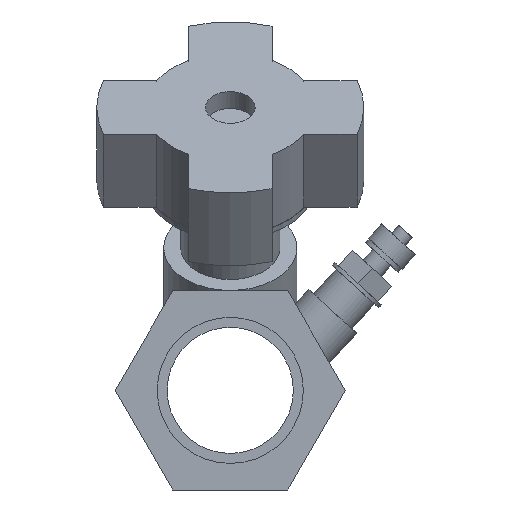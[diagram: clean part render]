
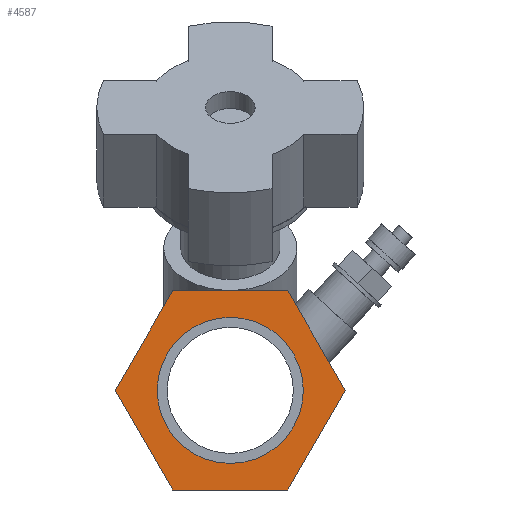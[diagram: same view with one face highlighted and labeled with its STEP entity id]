
A CAD part, left-side view. The second image highlights one B-rep face of the part: STEP entity #4587.
In plain terms, the highlighted planar face has unit normal (-1, 0, 0).
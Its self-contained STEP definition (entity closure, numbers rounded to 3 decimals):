
#247 = CYLINDRICAL_SURFACE('',#248,0.75);
#248 = AXIS2_PLACEMENT_3D('',#249,#250,#251);
#249 = CARTESIAN_POINT('',(0.,0.,0.));
#250 = DIRECTION('',(1.,0.,0.));
#251 = DIRECTION('',(0.,-1.,0.));
#272 = VERTEX_POINT('',#273);
#273 = CARTESIAN_POINT('',(0.,-0.75,0.));
#293 = EDGE_CURVE('',#272,#272,#294,.T.);
#294 = SURFACE_CURVE('',#295,(#300,#307),.PCURVE_S1.);
#295 = CIRCLE('',#296,0.75);
#296 = AXIS2_PLACEMENT_3D('',#297,#298,#299);
#297 = CARTESIAN_POINT('',(0.,0.,0.));
#298 = DIRECTION('',(1.,0.,0.));
#299 = DIRECTION('',(0.,-1.,0.));
#300 = PCURVE('',#247,#301);
#301 = DEFINITIONAL_REPRESENTATION('',(#302),#306);
#302 = LINE('',#303,#304);
#303 = CARTESIAN_POINT('',(0.,0.));
#304 = VECTOR('',#305,1.);
#305 = DIRECTION('',(1.,0.));
#306 = ( GEOMETRIC_REPRESENTATION_CONTEXT(2) 
PARAMETRIC_REPRESENTATION_CONTEXT() REPRESENTATION_CONTEXT('2D SPACE',''
  ) );
#307 = PCURVE('',#308,#313);
#308 = PLANE('',#309);
#309 = AXIS2_PLACEMENT_3D('',#310,#311,#312);
#310 = CARTESIAN_POINT('',(0.,0.,0.));
#311 = DIRECTION('',(1.,0.,0.));
#312 = DIRECTION('',(0.,0.,-1.));
#313 = DEFINITIONAL_REPRESENTATION('',(#314),#318);
#314 = CIRCLE('',#315,0.75);
#315 = AXIS2_PLACEMENT_2D('',#316,#317);
#316 = CARTESIAN_POINT('',(0.,0.));
#317 = DIRECTION('',(0.,-1.));
#318 = ( GEOMETRIC_REPRESENTATION_CONTEXT(2) 
PARAMETRIC_REPRESENTATION_CONTEXT() REPRESENTATION_CONTEXT('2D SPACE',''
  ) );
#4114 = PLANE('',#4115);
#4115 = AXIS2_PLACEMENT_3D('',#4116,#4117,#4118);
#4116 = CARTESIAN_POINT('',(0.,-0.886,0.512));
#4117 = DIRECTION('',(0.,-0.866,0.5));
#4118 = DIRECTION('',(0.,-0.5,-0.866));
#4142 = PLANE('',#4143);
#4143 = AXIS2_PLACEMENT_3D('',#4144,#4145,#4146);
#4144 = CARTESIAN_POINT('',(0.,-0.886,-0.512));
#4145 = DIRECTION('',(0.,-0.866,-0.5));
#4146 = DIRECTION('',(0.,0.5,-0.866));
#4170 = PLANE('',#4171);
#4171 = AXIS2_PLACEMENT_3D('',#4172,#4173,#4174);
#4172 = CARTESIAN_POINT('',(0.,0.,-1.023));
#4173 = DIRECTION('',(0.,0.,-1.));
#4174 = DIRECTION('',(0.,1.,0.));
#4198 = PLANE('',#4199);
#4199 = AXIS2_PLACEMENT_3D('',#4200,#4201,#4202);
#4200 = CARTESIAN_POINT('',(0.,0.886,-0.512));
#4201 = DIRECTION('',(0.,0.866,-0.5));
#4202 = DIRECTION('',(0.,0.5,0.866));
#4226 = PLANE('',#4227);
#4227 = AXIS2_PLACEMENT_3D('',#4228,#4229,#4230);
#4228 = CARTESIAN_POINT('',(0.,0.886,0.512));
#4229 = DIRECTION('',(0.,0.866,0.5));
#4230 = DIRECTION('',(0.,-0.5,0.866));
#4252 = PLANE('',#4253);
#4253 = AXIS2_PLACEMENT_3D('',#4254,#4255,#4256);
#4254 = CARTESIAN_POINT('',(0.,0.,1.023));
#4255 = DIRECTION('',(0.,0.,1.));
#4256 = DIRECTION('',(0.,-1.,0.));
#4299 = VERTEX_POINT('',#4300);
#4300 = CARTESIAN_POINT('',(0.,-0.591,1.023));
#4321 = EDGE_CURVE('',#4322,#4299,#4324,.T.);
#4322 = VERTEX_POINT('',#4323);
#4323 = CARTESIAN_POINT('',(0.,-1.181,0.));
#4324 = SURFACE_CURVE('',#4325,(#4329,#4336),.PCURVE_S1.);
#4325 = LINE('',#4326,#4327);
#4326 = CARTESIAN_POINT('',(0.,-1.181,0.));
#4327 = VECTOR('',#4328,1.);
#4328 = DIRECTION('',(0.,0.5,0.866));
#4329 = PCURVE('',#4114,#4330);
#4330 = DEFINITIONAL_REPRESENTATION('',(#4331),#4335);
#4331 = LINE('',#4332,#4333);
#4332 = CARTESIAN_POINT('',(0.591,0.));
#4333 = VECTOR('',#4334,1.);
#4334 = DIRECTION('',(-1.,0.));
#4335 = ( GEOMETRIC_REPRESENTATION_CONTEXT(2) 
PARAMETRIC_REPRESENTATION_CONTEXT() REPRESENTATION_CONTEXT('2D SPACE',''
  ) );
#4336 = PCURVE('',#308,#4337);
#4337 = DEFINITIONAL_REPRESENTATION('',(#4338),#4342);
#4338 = LINE('',#4339,#4340);
#4339 = CARTESIAN_POINT('',(0.,-1.181));
#4340 = VECTOR('',#4341,1.);
#4341 = DIRECTION('',(-0.866,0.5));
#4342 = ( GEOMETRIC_REPRESENTATION_CONTEXT(2) 
PARAMETRIC_REPRESENTATION_CONTEXT() REPRESENTATION_CONTEXT('2D SPACE',''
  ) );
#4370 = VERTEX_POINT('',#4371);
#4371 = CARTESIAN_POINT('',(0.,0.591,1.023));
#4392 = EDGE_CURVE('',#4299,#4370,#4393,.T.);
#4393 = SURFACE_CURVE('',#4394,(#4398,#4405),.PCURVE_S1.);
#4394 = LINE('',#4395,#4396);
#4395 = CARTESIAN_POINT('',(0.,-0.591,1.023));
#4396 = VECTOR('',#4397,1.);
#4397 = DIRECTION('',(0.,1.,0.));
#4398 = PCURVE('',#4252,#4399);
#4399 = DEFINITIONAL_REPRESENTATION('',(#4400),#4404);
#4400 = LINE('',#4401,#4402);
#4401 = CARTESIAN_POINT('',(0.591,0.));
#4402 = VECTOR('',#4403,1.);
#4403 = DIRECTION('',(-1.,0.));
#4404 = ( GEOMETRIC_REPRESENTATION_CONTEXT(2) 
PARAMETRIC_REPRESENTATION_CONTEXT() REPRESENTATION_CONTEXT('2D SPACE',''
  ) );
#4405 = PCURVE('',#308,#4406);
#4406 = DEFINITIONAL_REPRESENTATION('',(#4407),#4411);
#4407 = LINE('',#4408,#4409);
#4408 = CARTESIAN_POINT('',(-1.023,-0.591));
#4409 = VECTOR('',#4410,1.);
#4410 = DIRECTION('',(0.,1.));
#4411 = ( GEOMETRIC_REPRESENTATION_CONTEXT(2) 
PARAMETRIC_REPRESENTATION_CONTEXT() REPRESENTATION_CONTEXT('2D SPACE',''
  ) );
#4419 = VERTEX_POINT('',#4420);
#4420 = CARTESIAN_POINT('',(0.,1.181,0.));
#4441 = EDGE_CURVE('',#4370,#4419,#4442,.T.);
#4442 = SURFACE_CURVE('',#4443,(#4447,#4454),.PCURVE_S1.);
#4443 = LINE('',#4444,#4445);
#4444 = CARTESIAN_POINT('',(0.,0.591,1.023));
#4445 = VECTOR('',#4446,1.);
#4446 = DIRECTION('',(0.,0.5,-0.866));
#4447 = PCURVE('',#4226,#4448);
#4448 = DEFINITIONAL_REPRESENTATION('',(#4449),#4453);
#4449 = LINE('',#4450,#4451);
#4450 = CARTESIAN_POINT('',(0.591,0.));
#4451 = VECTOR('',#4452,1.);
#4452 = DIRECTION('',(-1.,0.));
#4453 = ( GEOMETRIC_REPRESENTATION_CONTEXT(2) 
PARAMETRIC_REPRESENTATION_CONTEXT() REPRESENTATION_CONTEXT('2D SPACE',''
  ) );
#4454 = PCURVE('',#308,#4455);
#4455 = DEFINITIONAL_REPRESENTATION('',(#4456),#4460);
#4456 = LINE('',#4457,#4458);
#4457 = CARTESIAN_POINT('',(-1.023,0.591));
#4458 = VECTOR('',#4459,1.);
#4459 = DIRECTION('',(0.866,0.5));
#4460 = ( GEOMETRIC_REPRESENTATION_CONTEXT(2) 
PARAMETRIC_REPRESENTATION_CONTEXT() REPRESENTATION_CONTEXT('2D SPACE',''
  ) );
#4468 = VERTEX_POINT('',#4469);
#4469 = CARTESIAN_POINT('',(0.,0.591,-1.023));
#4490 = EDGE_CURVE('',#4419,#4468,#4491,.T.);
#4491 = SURFACE_CURVE('',#4492,(#4496,#4503),.PCURVE_S1.);
#4492 = LINE('',#4493,#4494);
#4493 = CARTESIAN_POINT('',(0.,1.181,0.));
#4494 = VECTOR('',#4495,1.);
#4495 = DIRECTION('',(0.,-0.5,-0.866));
#4496 = PCURVE('',#4198,#4497);
#4497 = DEFINITIONAL_REPRESENTATION('',(#4498),#4502);
#4498 = LINE('',#4499,#4500);
#4499 = CARTESIAN_POINT('',(0.591,0.));
#4500 = VECTOR('',#4501,1.);
#4501 = DIRECTION('',(-1.,0.));
#4502 = ( GEOMETRIC_REPRESENTATION_CONTEXT(2) 
PARAMETRIC_REPRESENTATION_CONTEXT() REPRESENTATION_CONTEXT('2D SPACE',''
  ) );
#4503 = PCURVE('',#308,#4504);
#4504 = DEFINITIONAL_REPRESENTATION('',(#4505),#4509);
#4505 = LINE('',#4506,#4507);
#4506 = CARTESIAN_POINT('',(0.,1.181));
#4507 = VECTOR('',#4508,1.);
#4508 = DIRECTION('',(0.866,-0.5));
#4509 = ( GEOMETRIC_REPRESENTATION_CONTEXT(2) 
PARAMETRIC_REPRESENTATION_CONTEXT() REPRESENTATION_CONTEXT('2D SPACE',''
  ) );
#4517 = VERTEX_POINT('',#4518);
#4518 = CARTESIAN_POINT('',(0.,-0.591,-1.023));
#4539 = EDGE_CURVE('',#4468,#4517,#4540,.T.);
#4540 = SURFACE_CURVE('',#4541,(#4545,#4552),.PCURVE_S1.);
#4541 = LINE('',#4542,#4543);
#4542 = CARTESIAN_POINT('',(0.,0.591,-1.023));
#4543 = VECTOR('',#4544,1.);
#4544 = DIRECTION('',(0.,-1.,0.));
#4545 = PCURVE('',#4170,#4546);
#4546 = DEFINITIONAL_REPRESENTATION('',(#4547),#4551);
#4547 = LINE('',#4548,#4549);
#4548 = CARTESIAN_POINT('',(0.591,0.));
#4549 = VECTOR('',#4550,1.);
#4550 = DIRECTION('',(-1.,0.));
#4551 = ( GEOMETRIC_REPRESENTATION_CONTEXT(2) 
PARAMETRIC_REPRESENTATION_CONTEXT() REPRESENTATION_CONTEXT('2D SPACE',''
  ) );
#4552 = PCURVE('',#308,#4553);
#4553 = DEFINITIONAL_REPRESENTATION('',(#4554),#4558);
#4554 = LINE('',#4555,#4556);
#4555 = CARTESIAN_POINT('',(1.023,0.591));
#4556 = VECTOR('',#4557,1.);
#4557 = DIRECTION('',(0.,-1.));
#4558 = ( GEOMETRIC_REPRESENTATION_CONTEXT(2) 
PARAMETRIC_REPRESENTATION_CONTEXT() REPRESENTATION_CONTEXT('2D SPACE',''
  ) );
#4566 = EDGE_CURVE('',#4517,#4322,#4567,.T.);
#4567 = SURFACE_CURVE('',#4568,(#4572,#4579),.PCURVE_S1.);
#4568 = LINE('',#4569,#4570);
#4569 = CARTESIAN_POINT('',(0.,-0.591,-1.023));
#4570 = VECTOR('',#4571,1.);
#4571 = DIRECTION('',(0.,-0.5,0.866));
#4572 = PCURVE('',#4142,#4573);
#4573 = DEFINITIONAL_REPRESENTATION('',(#4574),#4578);
#4574 = LINE('',#4575,#4576);
#4575 = CARTESIAN_POINT('',(0.591,0.));
#4576 = VECTOR('',#4577,1.);
#4577 = DIRECTION('',(-1.,0.));
#4578 = ( GEOMETRIC_REPRESENTATION_CONTEXT(2) 
PARAMETRIC_REPRESENTATION_CONTEXT() REPRESENTATION_CONTEXT('2D SPACE',''
  ) );
#4579 = PCURVE('',#308,#4580);
#4580 = DEFINITIONAL_REPRESENTATION('',(#4581),#4585);
#4581 = LINE('',#4582,#4583);
#4582 = CARTESIAN_POINT('',(1.023,-0.591));
#4583 = VECTOR('',#4584,1.);
#4584 = DIRECTION('',(-0.866,-0.5));
#4585 = ( GEOMETRIC_REPRESENTATION_CONTEXT(2) 
PARAMETRIC_REPRESENTATION_CONTEXT() REPRESENTATION_CONTEXT('2D SPACE',''
  ) );
#4587 = ADVANCED_FACE('',(#4588,#4591),#308,.F.);
#4588 = FACE_BOUND('',#4589,.T.);
#4589 = EDGE_LOOP('',(#4590));
#4590 = ORIENTED_EDGE('',*,*,#293,.T.);
#4591 = FACE_BOUND('',#4592,.T.);
#4592 = EDGE_LOOP('',(#4593,#4594,#4595,#4596,#4597,#4598));
#4593 = ORIENTED_EDGE('',*,*,#4566,.T.);
#4594 = ORIENTED_EDGE('',*,*,#4321,.T.);
#4595 = ORIENTED_EDGE('',*,*,#4392,.T.);
#4596 = ORIENTED_EDGE('',*,*,#4441,.T.);
#4597 = ORIENTED_EDGE('',*,*,#4490,.T.);
#4598 = ORIENTED_EDGE('',*,*,#4539,.T.);
